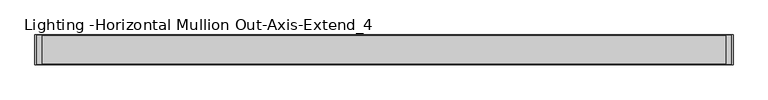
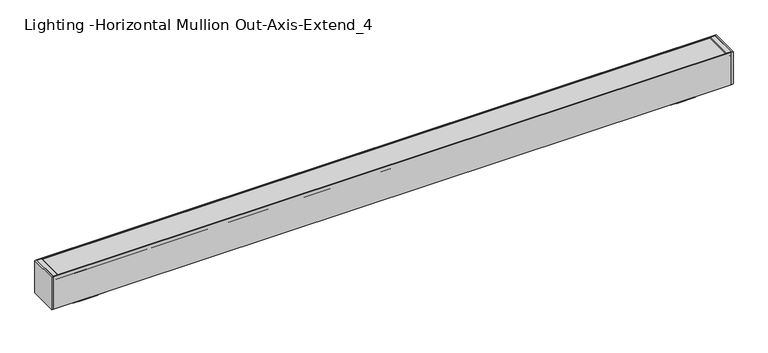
"""IFC4 building model written with IfcOpenShell, lengths in millimetres: light fixture geometry, Lighting -Horizontal Mullion Out-Axis-Extend_4 : EX4WD-900-80-35-SO-4."""

from ifc_helpers import new_model, si_unit, point, frame, frame_2d, origin, place, context, project, spatial, polyline, circle_curve, trimmed, segment, composite_curve, outline, extrude, faceted_brep, source, transform, mapped, element, save


def lighting_horizontal_mullion_out_axis_extend_4_89aab889(model_context):
    return source(origin(), model_context, "Body", "SolidModel", [
        extrude(outline(polyline([(155.4257861, -1210.2764833), (156.5275, -1211.201027), (156.5275, -1228.5898833), (151.9432981, -1228.5898833), (151.9432981, -1217.9218833), (154.7495, -1217.9218833), (154.7495, -1211.0702333), (153.95575, -1211.0702333), (153.95575, -1210.2764833), (155.4257861, -1210.2764833)])), frame((0.0, -9.08177, 0.0), z_axis=(0.0, 1.0, 0.0), x_axis=(0.0, 0.0, 1.0)), (0.0, 0.0, 1.0), 101.50602),
        extrude(outline(polyline([(-1228.5898833, 94.45625), (-1228.5898833, -11.11377), (-1234.9398833, -11.11377), (-1234.9398833, 94.45625), (-1228.5898833, 94.45625)])), frame((0.0, 0.0, 31.75), z_axis=(0.0, 0.0, 1.0), x_axis=(1.0, 0.0, 0.0)), (0.0, 0.0, 1.0), 124.7775),
        faceted_brep([(-1023.1902433, 66.8463453, 31.75), (-1023.1902433, 18.0836347, 31.75), (-1023.1902433, 18.0836347, 6.35), (-1023.1902433, 66.8463453, 6.35), (-1141.8895233, 66.8463453, 31.75), (-1141.8895233, 66.8463453, 6.35), (-1141.8895233, 18.0836347, 6.35), (-1141.8895233, 18.0836347, 31.75), (-1117.6740423, 61.46419, 0.0), (-1117.6740423, 61.46419, 6.35), (-1047.4057242, 61.46419, 6.35), (-1047.4057242, 61.46419, 0.0), (-1117.6740423, 23.46579, 0.0), (-1047.4057242, 23.46579, 0.0), (-1117.6740423, 23.46579, 6.35), (-1047.4057242, 23.46579, 6.35)], [[[0, 1, 2, 3]], [[4, 5, 6, 7]], [[8, 9, 10, 11]], [[12, 8, 11, 13]], [[14, 12, 13, 15]], [[1, 0, 4, 7]], [[0, 3, 5, 4]], [[6, 5, 3, 2], [14, 15, 10, 9]], [[6, 2, 1, 7]], [[14, 9, 8, 12]], [[10, 15, 13, 11]]]),
        faceted_brep([(1153.0817567, 66.8463453, 31.75), (1153.0817567, 18.0836347, 31.75), (1153.0817567, 18.0836347, 6.35), (1153.0817567, 66.8463453, 6.35), (1034.3824767, 66.8463453, 31.75), (1034.3824767, 66.8463453, 6.35), (1034.3824767, 18.0836347, 6.35), (1034.3824767, 18.0836347, 31.75), (1058.5979577, 61.46419, 0.0), (1058.5979577, 61.46419, 6.35), (1128.8662758, 61.46419, 6.35), (1128.8662758, 61.46419, 0.0), (1058.5979577, 23.46579, 0.0), (1128.8662758, 23.46579, 0.0), (1058.5979577, 23.46579, 6.35), (1128.8662758, 23.46579, 6.35)], [[[0, 1, 2, 3]], [[4, 5, 6, 7]], [[8, 9, 10, 11]], [[12, 8, 11, 13]], [[14, 12, 13, 15]], [[1, 0, 4, 7]], [[0, 3, 5, 4]], [[6, 5, 3, 2], [14, 15, 10, 9]], [[6, 2, 1, 7]], [[14, 9, 8, 12]], [[10, 15, 13, 11]]]),
        extrude(outline(polyline([(155.4257861, 1221.4687167), (153.95575, 1221.4687167), (153.95575, 1222.2624667), (154.7495, 1222.2624667), (154.7495, 1229.1141167), (151.9432981, 1229.1141167), (151.9432981, 1239.7821167), (156.5275, 1239.7821167), (156.5275, 1222.3932605), (155.4257861, 1221.4687167)])), frame((0.0, -9.08177, 0.0), z_axis=(0.0, 1.0, 0.0), x_axis=(0.0, 0.0, 1.0)), (0.0, 0.0, 1.0), 101.50602),
        extrude(outline(polyline([(1239.7821167, -11.11377), (1239.7821167, 94.45625), (1246.1321167, 94.45625), (1246.1321167, -11.11377), (1239.7821167, -11.11377)])), frame((0.0, 0.0, 31.75), z_axis=(0.0, 0.0, 1.0), x_axis=(1.0, 0.0, 0.0)), (0.0, 0.0, 1.0), 124.7775),
        extrude(outline(composite_curve([segment(polyline([(87.4187262, 151.7954791), (-2.4887462, 151.7954791), (-2.8274381, 145.3328537)]), True, "CONTINUOUS"), segment(trimmed(circle_curve(frame_2d((-5.57022, 142.33398)), 4.064), [point((-2.8274381, 145.3328537))], [point((-3.6979014, 138.7269703))], False, "CARTESIAN"), True, "CONTINUOUS"), segment(trimmed(circle_curve(frame_2d((-0.465364, 139.5158257)), 3.3274001), [point((-3.6979014, 138.7269703))], [point((-2.8826156, 137.2292375))], True, "CARTESIAN"), True, "CONTINUOUS"), segment(trimmed(circle_curve(frame_2d((4.5536623, 144.2635508)), 10.2362001), [point((-2.8826156, 137.2292375))], [point((-1.5279266, 136.0298355))], True, "CARTESIAN"), True, "CONTINUOUS"), segment(trimmed(circle_curve(frame_2d((-2.0183773, 135.3658262)), 0.8255), [point((-1.5279266, 136.0298355))], [point((-2.508828, 134.7018169))], False, "CARTESIAN"), True, "CONTINUOUS"), segment(trimmed(circle_curve(frame_2d((4.5536631, 144.2635517)), 11.8872013), [point((-2.508828, 134.7018169))], [point((-4.0820152, 136.0946708))], False, "CARTESIAN"), True, "CONTINUOUS"), segment(trimmed(circle_curve(frame_2d((-0.465364, 139.5158257)), 4.9784001), [point((-4.0820152, 136.0946708))], [point((-5.4269007, 139.92524))], False, "CARTESIAN"), True, "CONTINUOUS"), segment(trimmed(circle_curve(frame_2d((-5.57022, 142.33398)), 2.413), [point((-5.4269007, 139.92524))], [point((-3.7914141, 143.9644458))], True, "CARTESIAN"), True, "CONTINUOUS"), segment(trimmed(circle_curve(frame_2d((-1.9189869, 145.6807256)), 2.54), [point((-3.7914141, 143.9644458))], [point((-4.4555059, 145.8136589))], False, "CARTESIAN"), True, "CONTINUOUS"), segment(polyline([(-4.4555059, 145.8136589), (-4.142012, 151.7954791), (-7.14502, 151.7954791), (-7.14502, 153.70048), (92.075, 153.70048), (92.075, 151.7954791), (89.071992, 151.7954791), (89.3854859, 145.8136589)]), True, "CONTINUOUS"), segment(trimmed(circle_curve(frame_2d((86.8489669, 145.6807256)), 2.54), [point((89.3854859, 145.8136589))], [point((88.7213941, 143.9644458))], False, "CARTESIAN"), True, "CONTINUOUS"), segment(trimmed(circle_curve(frame_2d((90.5002, 142.33398)), 2.413), [point((88.7213941, 143.9644458))], [point((90.3568807, 139.92524))], True, "CARTESIAN"), True, "CONTINUOUS"), segment(trimmed(circle_curve(frame_2d((85.395344, 139.5158257)), 4.9784001), [point((90.3568807, 139.92524))], [point((89.0119952, 136.0946708))], False, "CARTESIAN"), True, "CONTINUOUS"), segment(trimmed(circle_curve(frame_2d((80.3763169, 144.2635517)), 11.8872013), [point((89.0119952, 136.0946708))], [point((87.438808, 134.7018169))], False, "CARTESIAN"), True, "CONTINUOUS"), segment(trimmed(circle_curve(frame_2d((86.9483573, 135.3658262)), 0.8255), [point((87.438808, 134.7018169))], [point((86.4579066, 136.0298355))], False, "CARTESIAN"), True, "CONTINUOUS"), segment(trimmed(circle_curve(frame_2d((80.3763177, 144.2635508)), 10.2362001), [point((86.4579066, 136.0298355))], [point((87.8125956, 137.2292375))], True, "CARTESIAN"), True, "CONTINUOUS"), segment(trimmed(circle_curve(frame_2d((85.395344, 139.5158257)), 3.3274001), [point((87.8125956, 137.2292375))], [point((88.6278814, 138.7269703))], True, "CARTESIAN"), True, "CONTINUOUS"), segment(trimmed(circle_curve(frame_2d((90.5002, 142.33398)), 4.064), [point((88.6278814, 138.7269703))], [point((87.7574181, 145.3328537))], False, "CARTESIAN"), True, "CONTINUOUS"), segment(polyline([(87.7574181, 145.3328537), (87.4187262, 151.7954791)]), True, "CONTINUOUS")], self_intersect=False)), frame((-1213.6038833, 0.0, 0.0), z_axis=(1.0, 0.0, 0.0), x_axis=(0.0, 1.0, 0.0)), (0.0, 0.0, 1.0), 2438.4),
        extrude(outline(composite_curve([segment(polyline([(92.42425, 141.6177), (90.5848297, 141.6177)]), True, "CONTINUOUS"), segment(trimmed(circle_curve(frame_2d((89.0784797, 141.6177)), 1.5063501), [point((90.5848297, 141.6177))], [point((88.3253046, 140.3131626))], False, "CARTESIAN"), True, "CONTINUOUS"), segment(trimmed(circle_curve(frame_2d((89.5164621, 142.3763079)), 2.382315), [point((88.3253046, 140.3131626))], [point((87.1419016, 142.5683682))], False, "CARTESIAN"), True, "CONTINUOUS"), segment(polyline([(87.1419016, 142.5683682), (90.51925, 145.4023), (90.51925, 143.6497), (92.42425, 143.6497), (92.42425, 150.1775), (90.51925, 150.1775), (90.51925, 148.6535), (88.86825, 148.7400252), (88.86825, 151.4475), (92.42425, 151.4475), (92.42425, 156.5275), (94.45625, 156.5275), (94.45625, 31.75), (-11.11377, 31.75), (-11.11377, 156.5275), (-9.08177, 156.5275), (-9.08177, 151.4475), (-5.52577, 151.4475), (-5.52577, 148.7400252), (-7.17677, 148.6535), (-7.17677, 150.1775), (-9.08177, 150.1775), (-9.08177, 143.6497), (-7.17677, 143.6497), (-7.17677, 145.4023), (-3.7994216, 142.5683682)]), True, "CONTINUOUS"), segment(trimmed(circle_curve(frame_2d((-6.1739821, 142.3763079)), 2.382315), [point((-3.7994216, 142.5683682))], [point((-4.9828246, 140.3131626))], False, "CARTESIAN"), True, "CONTINUOUS"), segment(trimmed(circle_curve(frame_2d((-5.7359997, 141.6177)), 1.5063501), [point((-4.9828246, 140.3131626))], [point((-7.2423497, 141.6177))], False, "CARTESIAN"), True, "CONTINUOUS"), segment(polyline([(-7.2423497, 141.6177), (-9.08177, 141.6177), (-9.08177, 33.782), (92.42425, 33.782), (92.42425, 141.6177)]), True, "CONTINUOUS")], self_intersect=False)), frame((-1228.5898833, 0.0, 0.0), z_axis=(1.0, 0.0, 0.0), x_axis=(0.0, 1.0, 0.0)), (0.0, 0.0, 1.0), 2468.372),
    ])


if __name__ == "__main__":
    model = new_model("IFC4")
    model_context = context("Model", 3, world=origin())
    ifc_project = project(units=[si_unit("LENGTHUNIT", "METRE", prefix="MILLI")], contexts=[model_context])
    site = spatial("IfcSite", under=ifc_project)
    building = spatial("IfcBuilding", under=site)
    placement = place(None, origin())
    lighting_horizontal_mullion_out_axis_extend_4_shape = lighting_horizontal_mullion_out_axis_extend_4_89aab889(model_context)
    element("IfcLightFixture", 1, ObjectType="Lighting -Horizontal Mullion Out-Axis-Extend_4 : EX4WD-900-80-35-SO-4", at=placement, inside=building, context=model_context, shape_type="MappedRepresentation", body=[
        mapped(lighting_horizontal_mullion_out_axis_extend_4_shape, transform((0.0, 0.0, 0.0), x_axis=(1.0, 0.0, 0.0), y_axis=(0.0, 1.0, 0.0), z_axis=(0.0, 0.0, 1.0))),
    ])
    save(model, "model.ifc")
